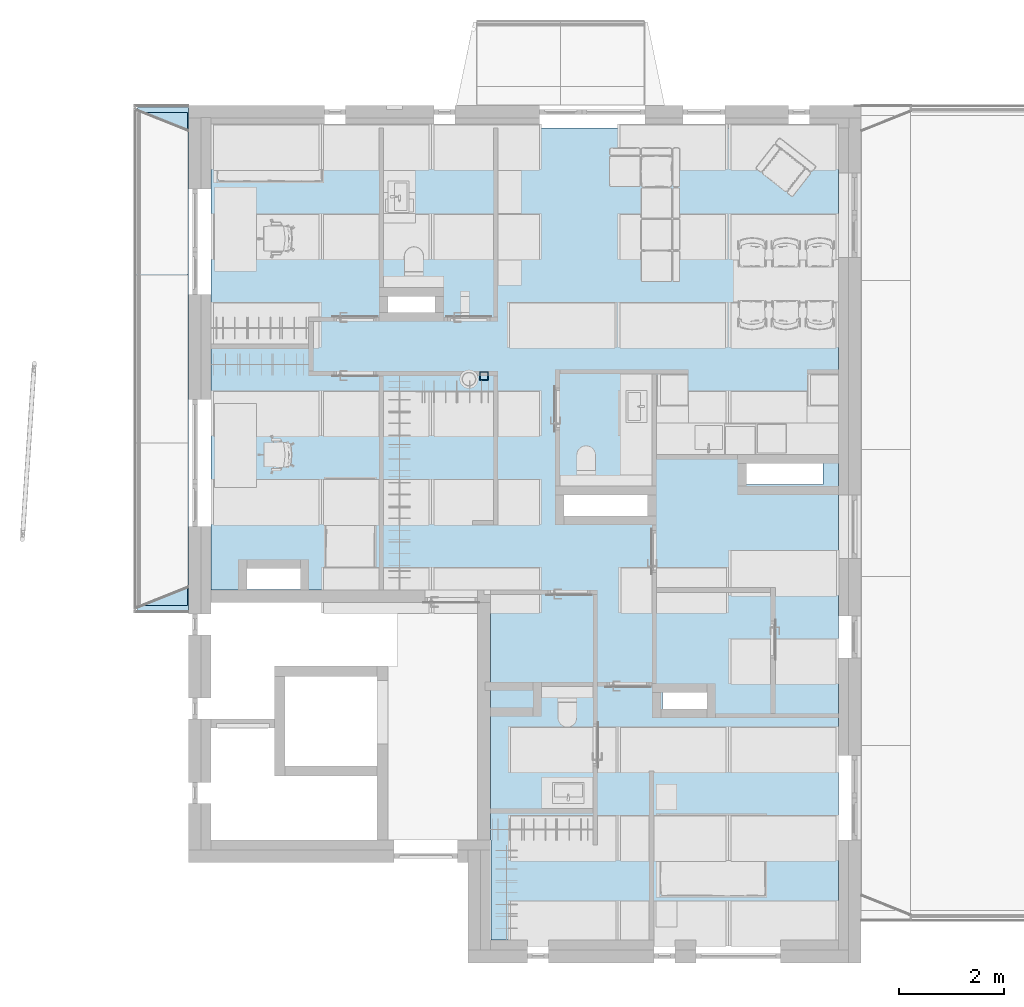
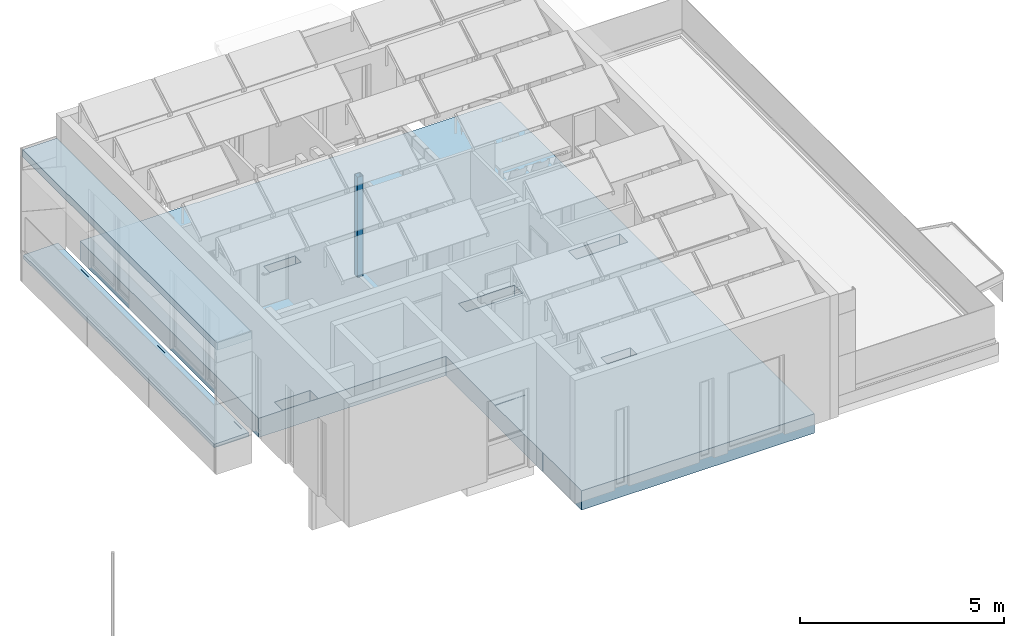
# One storey, part 1 of 57: 3 slabs, 1 column, 7 openings, 1 element without a shape of its own.
"""IFC2X3 building model written with IfcOpenShell, lengths in millimetres."""

import ifcopenshell
import ifcopenshell.guid

model = None  # the IFC model being written
_history = None  # IfcOwnerHistory: only IFC2X3 demands one
_inside = {}  # id of a spatial element -> (the spatial element, [elements in it])
_under = {}  # id of a project, library or spatial element -> (it, [spatial elements below it])
_declared = {}  # id of a project -> (the project, [libraries it declares])
_typed = {}  # id of a type object -> (the type object, [elements of that type])
_made_of = {}  # id of a material, layer set ... -> (it, [elements and type objects made of it])


def new_model(schema):
    """Start an empty IFC model of exactly this schema.

    Asked for "IFC4X3", IfcOpenShell would pick the latest addendum, in which some entities
    have other attributes; the version numbers below select the first issue.
    IFC2X3 requires an IfcOwnerHistory on every rooted entity: one is made here for all.
    """
    global model, _history
    if schema == "IFC4X3":
        model = ifcopenshell.file(schema_version=(4, 3, 0, 0))
    else:
        model = ifcopenshell.file(schema=schema)
    _inside.clear()
    _under.clear()
    _declared.clear()
    _typed.clear()
    _made_of.clear()
    _history = None
    if model.schema == "IFC2X3":
        org = make("IfcOrganization", Name="unknown")
        user = make(
            "IfcPersonAndOrganization",
            ThePerson=make("IfcPerson", FamilyName="unknown"),
            TheOrganization=org,
        )
        app = make(
            "IfcApplication",
            ApplicationDeveloper=org,
            Version="unknown",
            ApplicationFullName="unknown",
            ApplicationIdentifier="unknown",
        )
        _history = make(
            "IfcOwnerHistory",
            OwningUser=user,
            OwningApplication=app,
            ChangeAction="ADDED",
            CreationDate=0,
        )
    return model


def make(cls, **values):
    """One entity of the class cls with the attributes given. An attribute that is None is left unset."""
    return model.create_entity(
        cls, **{name: value for name, value in values.items() if value is not None}
    )


def entity(cls, *values):
    """Any entity or typed value of the class cls, its attributes in the order of the schema. None: left unset."""
    e = model.create_entity(cls)
    for i, value in enumerate(values):
        if value is not None:
            e[i] = value
    return e


def rooted(cls, **values):
    """An entity with a GlobalId (a new one), such as an element, a storey or a relation."""
    return make(cls, GlobalId=ifcopenshell.guid.new(), OwnerHistory=_history, **values)


def si_unit(unit_type, name, prefix=None):
    """IfcSIUnit, for example si_unit("LENGTHUNIT", "METRE", prefix="MILLI")."""
    return make("IfcSIUnit", UnitType=unit_type, Prefix=prefix, Name=name)


def converted_unit(unit_type, name, factor, base, dimensions=None, offset=None):
    """IfcConversionBasedUnit, such as the inch: factor (a typed value) times the base unit."""
    return make(
        "IfcConversionBasedUnit"
        if offset is None
        else "IfcConversionBasedUnitWithOffset",
        ConversionOffset=offset,
        Dimensions=None
        if dimensions is None
        else entity("IfcDimensionalExponents", *dimensions),
        UnitType=unit_type,
        Name=name,
        ConversionFactor=make(
            "IfcMeasureWithUnit", ValueComponent=factor, UnitComponent=base
        ),
    )


def assignment(units):
    """IfcUnitAssignment: the units of a project."""
    return None if units is None else make("IfcUnitAssignment", Units=units)


def point(xyz):
    """IfcCartesianPoint."""
    return None if xyz is None else make("IfcCartesianPoint", Coordinates=xyz)


def direction(xyz):
    """IfcDirection."""
    return None if xyz is None else make("IfcDirection", DirectionRatios=xyz)


def frame(location, z_axis=None, x_axis=None):
    """IfcAxis2Placement3D, a coordinate frame: its origin and axes. An axis left out is left unset."""
    return make(
        "IfcAxis2Placement3D",
        Location=point(location),
        Axis=direction(z_axis),
        RefDirection=direction(x_axis),
    )


def frame_2d(location, x_axis=None):
    """IfcAxis2Placement2D, a coordinate frame in the plane: its origin and x axis."""
    return make(
        "IfcAxis2Placement2D", Location=point(location), RefDirection=direction(x_axis)
    )


def origin():
    """The frame at (0, 0, 0) with its axes left unset."""
    return frame((0.0, 0.0, 0.0))


def origin_2d_with_axis():
    """The frame at (0, 0) in the plane with the x axis (1, 0) written out."""
    return frame_2d((0.0, 0.0), x_axis=(1.0, 0.0))


def place(relative_to, where):
    """IfcLocalPlacement: puts the frame where relative to a parent placement (None: the world)."""
    return make(
        "IfcLocalPlacement", PlacementRelTo=relative_to, RelativePlacement=where
    )


def context(
    kind, dimensions, precision=None, world=None, true_north=None, identifier=None
):
    """IfcGeometricRepresentationContext, for example the 3D "Model" context."""
    return make(
        "IfcGeometricRepresentationContext",
        ContextIdentifier=identifier,
        ContextType=kind,
        CoordinateSpaceDimension=dimensions,
        Precision=precision,
        WorldCoordinateSystem=world,
        TrueNorth=true_north,
    )


def subcontext(parent, identifier, kind, view, scale=None):
    """IfcGeometricRepresentationSubContext, for example "Body" below "Model"."""
    return make(
        "IfcGeometricRepresentationSubContext",
        ContextIdentifier=identifier,
        ContextType=kind,
        ParentContext=parent,
        TargetScale=scale,
        TargetView=view,
    )


def project(units=None, contexts=None):
    """IfcProject with its units and contexts."""
    return rooted(
        "IfcProject",
        Name="project",
        RepresentationContexts=contexts,
        UnitsInContext=assignment(units),
    )


def spatial(cls, under=None, at=None, **own):
    """A site, building, storey or space (cls), placed at a placement, below another one or the project."""
    s = rooted(cls, ObjectPlacement=at, **own)
    if under is not None:
        _under.setdefault(under.id(), (under, []))[1].append(s)
    return s


def polyline(points):
    """IfcPolyline through the points."""
    return make("IfcPolyline", Points=[point(p) for p in points])


def profile(cls, at=None, kind="AREA", **sizes):
    """A parametric profile (cls). Its sizes go by their IFC names, for example OverallWidth=200.0."""
    return make(cls, ProfileType=kind, Position=at, **sizes)


def rectangle(**sizes):
    """IfcRectangleProfileDef."""
    return profile("IfcRectangleProfileDef", **sizes)


def outline(outer, holes=None, kind="AREA"):
    """IfcArbitraryClosedProfileDef: a profile drawn as a closed curve; with holes, ...WithVoids."""
    if holes is None:
        return make("IfcArbitraryClosedProfileDef", ProfileType=kind, OuterCurve=outer)
    return make(
        "IfcArbitraryProfileDefWithVoids",
        ProfileType=kind,
        OuterCurve=outer,
        InnerCurves=holes,
    )


def extrude(swept, where, along, depth):
    """IfcExtrudedAreaSolid: the profile swept, set in the frame where, extruded along a direction by depth."""
    return make(
        "IfcExtrudedAreaSolid",
        SweptArea=swept,
        Position=where,
        ExtrudedDirection=direction(along),
        Depth=depth,
    )


def shape(context_of_items, identifier, shape_type, items):
    """IfcShapeRepresentation: the items that make up one representation, for example the "Body"."""
    return make(
        "IfcShapeRepresentation",
        ContextOfItems=context_of_items,
        RepresentationIdentifier=identifier,
        RepresentationType=shape_type,
        Items=items,
    )


def source(mapping_origin, context_of_items, identifier, shape_type, items):
    """IfcRepresentationMap: a shape defined once, which mapped items show again and again."""
    return make(
        "IfcRepresentationMap",
        MappingOrigin=mapping_origin,
        MappedRepresentation=shape(context_of_items, identifier, shape_type, items),
    )


def transform(
    local_origin,
    x_axis=None,
    y_axis=None,
    z_axis=None,
    scale=None,
    scale2=None,
    scale3=None,
    uniform=True,
):
    """IfcCartesianTransformationOperator3D, or its non-uniform kind. x_axis, y_axis, z_axis: its Axis1, 2, 3."""
    if uniform:
        return make(
            "IfcCartesianTransformationOperator3D",
            Axis1=direction(x_axis),
            Axis2=direction(y_axis),
            LocalOrigin=point(local_origin),
            Scale=scale,
            Axis3=direction(z_axis),
        )
    return make(
        "IfcCartesianTransformationOperator3DnonUniform",
        Axis1=direction(x_axis),
        Axis2=direction(y_axis),
        LocalOrigin=point(local_origin),
        Scale=scale,
        Axis3=direction(z_axis),
        Scale2=scale2,
        Scale3=scale3,
    )


def mapped(mapping_source, mapping_target):
    """IfcMappedItem: shows the shape of a source again, moved by a transform."""
    return make(
        "IfcMappedItem", MappingSource=mapping_source, MappingTarget=mapping_target
    )


def material(Name=None, Category=None):
    """IfcMaterial."""
    return make("IfcMaterial", Name=Name, Category=Category)


def layer(
    of_material, thickness, ventilated=None, Name=None, Category=None, Priority=None
):
    """IfcMaterialLayer: one layer of a wall or slab, of a material (None: an air gap)."""
    return make(
        "IfcMaterialLayer",
        Material=of_material,
        LayerThickness=thickness,
        IsVentilated=ventilated,
        Name=Name,
        Category=Category,
        Priority=Priority,
    )


def layer_set(layers, Name=None):
    """IfcMaterialLayerSet."""
    return make("IfcMaterialLayerSet", MaterialLayers=layers, LayerSetName=Name)


def layer_usage(for_layer_set, set_direction, sense, offset, extent=None):
    """IfcMaterialLayerSetUsage: how a layer set lies in its element."""
    return make(
        "IfcMaterialLayerSetUsage",
        ForLayerSet=for_layer_set,
        LayerSetDirection=set_direction,
        DirectionSense=sense,
        OffsetFromReferenceLine=offset,
        ReferenceExtent=extent,
    )


def made_of(thing, what):
    """Note that an element or type object is made of a material, layer set ...; save() writes the relation."""
    if what is not None:
        _made_of.setdefault(what.id(), (what, []))[1].append(thing)
    return thing


def type_object(cls, material=None, **own):
    """A type object (cls), such as IfcWallType, which elements share."""
    return made_of(rooted(cls, **own), material)


def type_shapes(of_type, sources):
    """Give a type object the sources (RepresentationMaps) that its elements show as mapped items."""
    of_type.RepresentationMaps = sources


def element(
    cls,
    number,
    at=None,
    inside=None,
    cuts=None,
    type_object=None,
    material=None,
    context=None,
    identifier="Body",
    shape_type=None,
    held_by="IfcProductDefinitionShape",
    body=None,
    shapes=None,
    **own,
):
    """One element of the class cls, such as IfcWall. Its Tag is "e" and its number.

    at: its placement. inside: the storey or other place that contains it. cuts: it is an
    opening in that element (IfcRelVoidsElement). A single representation is given by context,
    identifier, shape_type and body (its items); several are given by shapes. held_by: the class
    of the entity that holds the representations. save() writes the other relations.
    """
    e = rooted(cls, Tag="e%d" % number, ObjectPlacement=at, **own)
    if body is not None:
        shapes = [shape(context, identifier, shape_type, body)]
    if shapes is not None:
        e.Representation = make(held_by, Representations=shapes)
    if inside is not None:
        _inside.setdefault(inside.id(), (inside, []))[1].append(e)
    if cuts is not None:
        rooted(
            "IfcRelVoidsElement", RelatingBuildingElement=cuts, RelatedOpeningElement=e
        )
    if type_object is not None:
        _typed.setdefault(type_object.id(), (type_object, []))[1].append(e)
    return made_of(e, material)


def aggregate(whole, parts):
    """IfcRelAggregates: a whole, such as a stair, and the parts it consists of."""
    return rooted("IfcRelAggregates", RelatingObject=whole, RelatedObjects=parts)


def save(model, path):
    """Write the relations noted so far, then the file.

    IfcRelAggregates (storeys below a building ...), IfcRelContainedInSpatialStructure (elements
    in a storey), IfcRelDefinesByType, IfcRelAssociatesMaterial and IfcRelDeclares: one each for
    every whole, place, type object, material and project.
    """
    for whole, parts in _under.values():
        aggregate(whole, parts)
    for where, things in _inside.values():
        rooted(
            "IfcRelContainedInSpatialStructure",
            RelatedElements=things,
            RelatingStructure=where,
        )
    for kind, things in _typed.values():
        rooted("IfcRelDefinesByType", RelatedObjects=things, RelatingType=kind)
    for what, things in _made_of.values():
        rooted("IfcRelAssociatesMaterial", RelatedObjects=things, RelatingMaterial=what)
    for by, libraries in _declared.values():
        rooted("IfcRelDeclares", RelatingContext=by, RelatedDefinitions=libraries)
    model.write(path)


model = new_model("IFC2X3")

# Units and contexts
model_context = context("Model", 3, precision=0.01, world=origin(), true_north=direction((6.123233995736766e-17, 1.0)))
plan_context = context("Plan", 3, precision=0.01, world=origin(), true_north=direction((6.123233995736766e-17, 1.0)))
body_context = subcontext(model_context, "Body", "Model", "MODEL_VIEW")
ifc_project = project(units=[si_unit("LENGTHUNIT", "METRE", prefix="MILLI"), converted_unit("PLANEANGLEUNIT", "DEGREE", entity("IfcPlaneAngleMeasure", 0.017453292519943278), si_unit("PLANEANGLEUNIT", "RADIAN"), dimensions=[0, 0, 0, 0, 0, 0, 0]), si_unit("AREAUNIT", "SQUARE_METRE")], contexts=[model_context, plan_context])

# Site, building, storey
site_placement = place(None, origin())
site = spatial("IfcSite", under=ifc_project, at=site_placement, Name="Default", CompositionType="ELEMENT")
building_placement = place(site_placement, origin())
building = spatial("IfcBuilding", under=site, at=building_placement, CompositionType="ELEMENT")
storey_placement = place(building_placement, frame((0.0, 0.0, 12811.000000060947)))
storey = spatial("IfcBuildingStorey", under=building, at=storey_placement, Name="5K", CompositionType="ELEMENT", Elevation=12811.000000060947)

# Column
ifc_material_1 = material(Name="_K. Metall. Teras. Värvitud")
column_type = type_object("IfcColumnType", Name="HR_Column_Rectangular_Hollow:160x160x5", PredefinedType="COLUMN", material=ifc_material_1)
shared_shape = source(origin(), body_context, "Body", "SweptSolid", [
    extrude(outline(polyline([(-80.0, -80.0), (80.0, -80.0), (80.0, 80.0), (-80.0, 80.0), (-80.0, -80.0)]), holes=[polyline([(75.0, 75.0), (75.0, -75.0), (-75.0, -75.0), (-75.0, 75.0), (75.0, 75.0)])]), frame((0.0, 0.0, 12811.000000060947), z_axis=(0.0, 0.0, 1.0), x_axis=(0.0, 1.0, 0.0)), (0.0, 0.0, 1.0), 2993.9999999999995),
])
type_shapes(column_type, [shared_shape])
column_placement = place(storey_placement, frame((5175.0, 10700.0, -12811.000000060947)))
element("IfcColumn", 1, at=column_placement, inside=storey, type_object=column_type, material=ifc_material_1, Name="HR_Column_Rectangular_Hollow:160x160x5", ObjectType="HR_Column_Rectangular_Hollow:160x160x5", context=body_context, shape_type="MappedRepresentation", body=[
    mapped(shared_shape, transform((0.0, 0.0, 0.0), scale=1.0)),
])

# Slab, openings
ifc_material_2 = material(Name="_K. Betoon. Armeeritud. Kohtvalu")
ifc_layer_1 = layer(ifc_material_2, 80.0)
ifc_material_3 = material(Name="_K. Soojustus. Mineraalvill")
ifc_layer_2 = layer(ifc_material_3, 30.0)
ifc_material_4 = material(Name="_K. Soojustus. EPS")
ifc_layer_3 = layer(ifc_material_4, 176.0)
ifc_layer_4 = layer(ifc_material_4, 25.0)
ifc_material_5 = material(Name="_K. Betoon. Armeeritud. Monteeritav")
ifc_layer_5 = layer(ifc_material_5, 265.0)
ifc_layer_set_1 = layer_set([ifc_layer_1, ifc_layer_2, ifc_layer_3, ifc_layer_4, ifc_layer_5], Name="Floor:VL-01-B")
ifc_layer_usage = layer_usage(ifc_layer_set_1, "AXIS3", "POSITIVE", 0.0)
slab_type_1 = type_object("IfcSlabType", Name="Floor:VL-01-B", PredefinedType="FLOOR", material=ifc_layer_set_1)
slab_1_placement = place(storey_placement, frame((0.0, 0.0, -596.0)))
slab_1 = element("IfcSlab", 2, at=slab_1_placement, inside=storey, type_object=slab_type_1, material=ifc_layer_usage, Name="Floor:VL-01-B", ObjectType="Floor:VL-01-B", PredefinedType="FLOOR", context=body_context, shape_type="SweptSolid", body=[
    extrude(outline(polyline([(-5950.0, 7700.0), (-5950.0, -7700.0), (645.0021362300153, -7700.0), (645.0021362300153, -5800.0), (650.0049391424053, -5800.0), (650.0049391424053, -1055.0000405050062), (5950.0, -1055.0000405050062), (5950.0, 7700.0), (-5950.0, 7700.0)])), frame((5950.0, 7700.0, 576.0), z_axis=(0.0, 0.0, -1.0), x_axis=(-1.0, 0.0, 0.0)), (0.0, 0.0, 1.0), 575.999999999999),
])
opening_1_placement = place(slab_1_placement, origin())
element("IfcOpeningElement", 3, at=opening_1_placement, cuts=slab_1, Name="Floor:VL-01-B", ObjectType="Opening", context=body_context, shape_type="SweptSolid", body=[
    extrude(rectangle(XDim=400.0, YDim=1010.0, at=origin_2d_with_axis()), frame((1185.0, 6850.0, 0.0), z_axis=(0.0, 0.0, 1.0), x_axis=(0.0, 1.0, 0.0)), (0.0, 0.0, 1.0), 575.999999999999),
])
opening_2_placement = place(slab_1_placement, origin())
element("IfcOpeningElement", 4, at=opening_2_placement, cuts=slab_1, Name="Floor:VL-01-B", ObjectType="Opening", context=body_context, shape_type="SweptSolid", body=[
    extrude(rectangle(XDim=320.0000000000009, YDim=839.9999999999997, at=origin_2d_with_axis()), frame((8980.0, 4540.0, 0.0), z_axis=(0.0, 0.0, 1.0), x_axis=(0.0, 1.0, 0.0)), (0.0, 0.0, 1.0), 575.999999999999),
])
opening_3_placement = place(slab_1_placement, origin())
element("IfcOpeningElement", 5, at=opening_3_placement, cuts=slab_1, Name="Floor:VL-01-B", ObjectType="Opening", context=body_context, shape_type="SweptSolid", body=[
    extrude(rectangle(XDim=400.0, YDim=1590.0000000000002, at=origin_2d_with_axis()), frame((7485.0, 8240.0, 0.0), z_axis=(0.0, 0.0, 1.0), x_axis=(0.0, 1.0, 0.0)), (0.0, 0.0, 1.0), 575.999999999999),
])
opening_4_placement = place(slab_1_placement, origin())
element("IfcOpeningElement", 6, at=opening_4_placement, cuts=slab_1, Name="Floor:VL-01-B", ObjectType="Opening", context=body_context, shape_type="SweptSolid", body=[
    extrude(rectangle(XDim=399.9999999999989, YDim=1449.9999999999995, at=origin_2d_with_axis()), frame((10875.0, 8840.0, 0.0), z_axis=(0.0, 0.0, 1.0), x_axis=(0.0, 1.0, 0.0)), (0.0, 0.0, 1.0), 575.999999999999),
])
opening_5_placement = place(slab_1_placement, origin())
element("IfcOpeningElement", 7, at=opening_5_placement, cuts=slab_1, Name="Floor:VL-01-B", ObjectType="Opening", context=body_context, shape_type="SweptSolid", body=[
    extrude(rectangle(XDim=310.000000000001, YDim=900.0000000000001, at=frame_2d((1.0942358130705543e-12, 0.0), x_axis=(1.0, 0.0))), frame((3800.0, 12055.0, 0.0), z_axis=(0.0, 0.0, 1.0), x_axis=(0.0, 1.0, 0.0)), (0.0, 0.0, 1.0), 575.999999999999),
])
opening_6_placement = place(slab_1_placement, frame((0.0, 0.0, 576.0)))
element("IfcOpeningElement", 8, at=opening_6_placement, cuts=slab_1, Name="Floor:VL-01-B", ObjectType="Opening", context=body_context, shape_type="SweptSolid", body=[
    extrude(outline(polyline([(-557.4999999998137, -6.916666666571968), (1522.4999999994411, -6.916666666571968), (-407.4999999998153, 6.916666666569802), (-557.4999999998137, 6.916666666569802), (-557.4999999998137, -6.916666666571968)])), frame((3829.499999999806, 14600.0, -6.916666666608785), z_axis=(0.0, 1.0, 0.0), x_axis=(1.0, 0.0, 0.0)), (0.0, 0.0, 1.0), 800.0),
])
opening_7_placement = place(slab_1_placement, frame((0.0, 0.0, 576.0)))
element("IfcOpeningElement", 9, at=opening_7_placement, cuts=slab_1, Name="Floor:VL-01-B", ObjectType="Opening", context=body_context, shape_type="SweptSolid", body=[
    extrude(outline(polyline([(-281.2499999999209, -6.916666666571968), (693.7499999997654, -6.916666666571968), (-131.24999999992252, 6.916666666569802), (-281.2499999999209, 6.916666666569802), (-281.2499999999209, -6.916666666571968)])), frame((5576.24719708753, 2492.0, -6.916666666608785), z_axis=(0.0, 1.0, 0.0), x_axis=(1.0, 0.0, 0.0)), (0.0, 0.0, 1.0), 1748.0),
])

# Slab
slab_type_2 = type_object("IfcSlabType", Name="HR_Slab_Balcony_v3:Default", PredefinedType="FLOOR", material=ifc_material_5)
slab_2_placement = place(storey_placement, frame((0.0, 0.0, -225.50023803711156)))
element("IfcSlab", 10, at=slab_2_placement, inside=storey, type_object=slab_type_2, Name="HR_Slab_Balcony_v3:Default", ObjectType="HR_Slab_Balcony_v3:Default", PredefinedType="FLOOR", context=body_context, shape_type="SweptSolid", body=[
    extrude(outline(polyline([(-71.62265485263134, -584.6216273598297), (48.37734514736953, -584.6216273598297), (48.377345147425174, 328.87837264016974), (38.377345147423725, 338.87837264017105), (38.37734514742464, 353.8783726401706), (48.377345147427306, 363.87837264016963), (48.37734514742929, 396.3783726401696), (-56.62265485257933, 396.378372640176), (-70.39610632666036, -504.4053537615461), (-71.62265485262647, -504.6216273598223), (-71.62265485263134, -584.6216273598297)])), frame((-1034.621627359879, 6347.996588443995, 48.377345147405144), z_axis=(0.0, 1.0, 0.0), x_axis=(0.0, 0.0, -1.0)), (0.0, 0.0, 1.0), 9353.999999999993),
])

# Roof, slab
ifc_material_6 = material(Name="_K. Katusekate. Rullmaterjal. SBS")
ifc_layer_6 = layer(ifc_material_6, 10.0)
ifc_material_7 = material(Name="_K. Ehitusplaat. Vineer. Veekindel")
ifc_layer_7 = layer(ifc_material_7, 15.0)
ifc_material_8 = material(Name="_K. Õhk. Roov. Fassaadikatte alusroov. Horisontaalne. 25 mm")
ifc_layer_8 = layer(ifc_material_8, 100.0)
ifc_layer_9 = layer(ifc_material_8, 100.0)
ifc_layer_set_2 = layer_set([ifc_layer_6, ifc_layer_7, ifc_layer_8, ifc_layer_9], Name="Basic Roof:KL-06")
roof_placement = place(storey_placement, frame((-1396.0, 6252.9834115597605, 2740.0)))
roof = element("IfcRoof", 11, at=roof_placement, inside=storey, material=ifc_layer_set_2, Name="Basic Roof:KL-06", ObjectType="Basic Roof:KL-06", ShapeType="NOTDEFINED")
type_product = type_object("IfcTypeProduct", Name="Basic Roof:KL-06")
slab_3_placement = place(roof_placement, origin())
slab_3 = element("IfcSlab", 12, at=slab_3_placement, type_object=type_product, material=ifc_layer_set_2, Name="Basic Roof:KL-06", ObjectType="Basic Roof:KL-06", PredefinedType="ROOF", context=body_context, shape_type="SweptSolid", body=[
    extrude(rectangle(XDim=965.9999999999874, YDim=9544.014992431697, at=frame_2d((5.684341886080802e-14, -9.094947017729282e-13), x_axis=(-1.0, 0.0))), frame((483.0, 4772.00749621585, 0.0)), (0.0, 0.0, 1.0), 225.00000000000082),
])
aggregate(roof, [slab_3])

save(model, "model.ifc")
